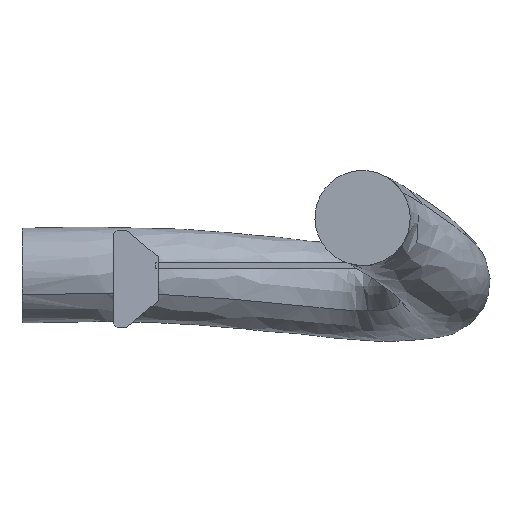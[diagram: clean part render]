
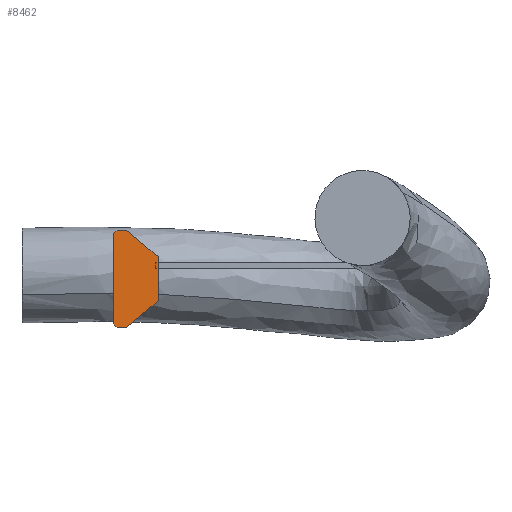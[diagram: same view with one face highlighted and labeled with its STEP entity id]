
A CAD part, front view. The second image highlights one B-rep face of the part: STEP entity #8462.
In plain terms, the highlighted planar face has unit normal (0, -1, 0.004).
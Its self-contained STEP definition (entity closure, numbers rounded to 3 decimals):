
#10 = EDGE_LOOP ( 'NONE', ( #6370, #6377, #6366, #6399, #6396, #1991, #1986, #6394 ) ) ;
#869 = DIRECTION ( 'NONE',  ( 0.707, 0.003, 0.707 ) ) ;
#886 = DIRECTION ( 'NONE',  ( 1., 0., 0. ) ) ;
#889 = CARTESIAN_POINT ( 'NONE',  ( 1928.5, 98.127, 2159.845 ) ) ;
#912 = DIRECTION ( 'NONE',  ( -1., 0., 0. ) ) ;
#913 = CARTESIAN_POINT ( 'NONE',  ( 1935.318, 97.872, 2089.446 ) ) ;
#918 = CARTESIAN_POINT ( 'NONE',  ( 1926., 98.118, 2157.345 ) ) ;
#930 = DIRECTION ( 'NONE',  ( 0.766, -0.002, -0.643 ) ) ;
#931 = CARTESIAN_POINT ( 'NONE',  ( 1935.318, 98.127, 2159.845 ) ) ;
#1295 = CARTESIAN_POINT ( 'NONE',  ( 1928.5, 97.872, 2089.446 ) ) ;
#1296 = DIRECTION ( 'NONE',  ( -0.707, 0.003, 0.707 ) ) ;
#1308 = CARTESIAN_POINT ( 'NONE',  ( 1958.2, 98.057, 2140.645 ) ) ;
#1309 = DIRECTION ( 'NONE',  ( 0., -0.004, -1. ) ) ;
#1314 = CARTESIAN_POINT ( 'NONE',  ( 1958.2, 97.941, 2108.646 ) ) ;
#1316 = DIRECTION ( 'NONE',  ( -0.766, -0.002, -0.643 ) ) ;
#1962 = VERTEX_POINT ( 'NONE', #5659 ) ;
#1966 = VERTEX_POINT ( 'NONE', #5656 ) ;
#1968 = VERTEX_POINT ( 'NONE', #5658 ) ;
#1972 = VERTEX_POINT ( 'NONE', #5651 ) ;
#1973 = VERTEX_POINT ( 'NONE', #5650 ) ;
#1979 = VERTEX_POINT ( 'NONE', #5646 ) ;
#1982 = VERTEX_POINT ( 'NONE', #5654 ) ;
#1986 = ORIENTED_EDGE ( 'NONE', *, *, #4867, .F. ) ;
#1991 = ORIENTED_EDGE ( 'NONE', *, *, #4826, .F. ) ;
#2005 = VERTEX_POINT ( 'NONE', #5642 ) ;
#4826 = EDGE_CURVE ( 'NONE', #1972, #1966, #12327, .T. ) ;
#4837 = AXIS2_PLACEMENT_3D ( 'NONE', #6024, #6033, #6034 ) ;
#4850 = EDGE_CURVE ( 'NONE', #1982, #1979, #12345, .T. ) ;
#4853 = EDGE_CURVE ( 'NONE', #1966, #1982, #12341, .T. ) ;
#4857 = EDGE_CURVE ( 'NONE', #1979, #1968, #12357, .T. ) ;
#4861 = EDGE_CURVE ( 'NONE', #1973, #1962, #12365, .T. ) ;
#4867 = EDGE_CURVE ( 'NONE', #1962, #1972, #12373, .T. ) ;
#4874 = EDGE_CURVE ( 'NONE', #1968, #2005, #12387, .T. ) ;
#4877 = EDGE_CURVE ( 'NONE', #2005, #1973, #12393, .T. ) ;
#5617 = CARTESIAN_POINT ( 'NONE',  ( 1926., 97.881, 2091.946 ) ) ;
#5642 = CARTESIAN_POINT ( 'NONE',  ( 1958.2, 97.941, 2108.646 ) ) ;
#5646 = CARTESIAN_POINT ( 'NONE',  ( 1935.318, 98.127, 2159.845 ) ) ;
#5650 = CARTESIAN_POINT ( 'NONE',  ( 1935.318, 97.872, 2089.446 ) ) ;
#5651 = CARTESIAN_POINT ( 'NONE',  ( 1926., 97.881, 2091.946 ) ) ;
#5654 = CARTESIAN_POINT ( 'NONE',  ( 1928.5, 98.127, 2159.845 ) ) ;
#5656 = CARTESIAN_POINT ( 'NONE',  ( 1926., 98.118, 2157.345 ) ) ;
#5658 = CARTESIAN_POINT ( 'NONE',  ( 1958.2, 98.057, 2140.645 ) ) ;
#5659 = CARTESIAN_POINT ( 'NONE',  ( 1928.5, 97.872, 2089.446 ) ) ;
#6024 = CARTESIAN_POINT ( 'NONE',  ( 342.974, 90.295, -5.77 ) ) ;
#6031 = PLANE ( 'NONE',  #4837 ) ;
#6033 = DIRECTION ( 'NONE',  ( 0., 1., -0.004 ) ) ;
#6034 = DIRECTION ( 'NONE',  ( 0., 0.004, 1. ) ) ;
#6366 = ORIENTED_EDGE ( 'NONE', *, *, #4857, .F. ) ;
#6370 = ORIENTED_EDGE ( 'NONE', *, *, #4877, .F. ) ;
#6377 = ORIENTED_EDGE ( 'NONE', *, *, #4874, .F. ) ;
#6394 = ORIENTED_EDGE ( 'NONE', *, *, #4861, .F. ) ;
#6396 = ORIENTED_EDGE ( 'NONE', *, *, #4853, .F. ) ;
#6399 = ORIENTED_EDGE ( 'NONE', *, *, #4850, .F. ) ;
#8462 = ADVANCED_FACE ( 'NONE', ( #12404 ), #6031, .F. ) ;
#12314 = DIRECTION ( 'NONE',  ( 0., 0.004, 1. ) ) ;
#12327 = LINE ( 'NONE', #5617, #12328 ) ;
#12328 = VECTOR ( 'NONE', #12314, 1000. ) ;
#12341 = LINE ( 'NONE', #918, #12352 ) ;
#12345 = LINE ( 'NONE', #889, #12346 ) ;
#12346 = VECTOR ( 'NONE', #886, 1000. ) ;
#12352 = VECTOR ( 'NONE', #869, 1000. ) ;
#12357 = LINE ( 'NONE', #931, #12360 ) ;
#12360 = VECTOR ( 'NONE', #930, 1000. ) ;
#12365 = LINE ( 'NONE', #913, #12368 ) ;
#12368 = VECTOR ( 'NONE', #912, 1000. ) ;
#12373 = LINE ( 'NONE', #1295, #12376 ) ;
#12376 = VECTOR ( 'NONE', #1296, 1000. ) ;
#12387 = LINE ( 'NONE', #1308, #12390 ) ;
#12390 = VECTOR ( 'NONE', #1309, 1000. ) ;
#12393 = LINE ( 'NONE', #1314, #12396 ) ;
#12396 = VECTOR ( 'NONE', #1316, 1000. ) ;
#12404 = FACE_OUTER_BOUND ( 'NONE', #10, .T. ) ;
